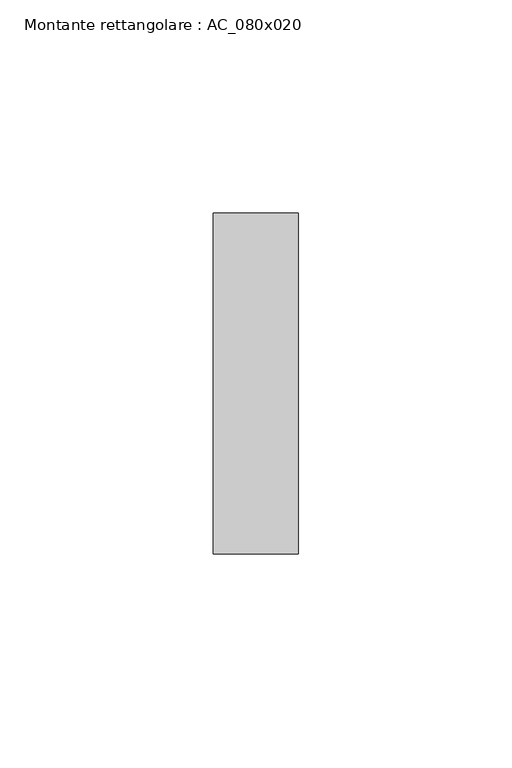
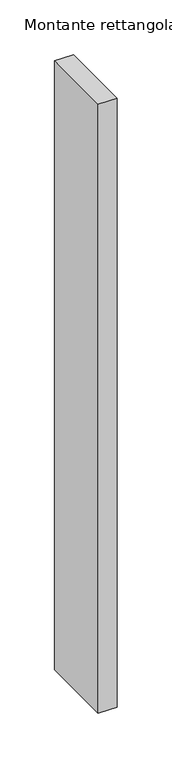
"""IFC4 building model written with IfcOpenShell, lengths in millimetres: member geometry, Montante rettangolare : AC_080x020."""

from ifc_helpers import new_model, si_unit, frame, origin, place, context, project, spatial, polyline, outline, extrude, source, transform, mapped, element, save


def montante_rettangolare_ac_080x020_0aace36a(model_context):
    return source(origin(), model_context, "Body", "SweptSolid", [
        extrude(outline(polyline([(0.0, 40.0), (0.0, -40.0), (-20.0, -40.0), (-20.0, 40.0), (0.0, 40.0)])), frame((0.0, 0.0, -679.3356215), z_axis=(0.0, 0.0, 1.0), x_axis=(1.0, 0.0, 0.0)), (0.0, 0.0, 1.0), 679.3356215),
    ])


if __name__ == "__main__":
    model = new_model("IFC4")
    model_context = context("Model", 3, world=origin())
    ifc_project = project(units=[si_unit("LENGTHUNIT", "METRE", prefix="MILLI")], contexts=[model_context])
    site = spatial("IfcSite", under=ifc_project)
    building = spatial("IfcBuilding", under=site)
    placement = place(None, origin())
    montante_rettangolare_ac_080x020_shape = montante_rettangolare_ac_080x020_0aace36a(model_context)
    element("IfcMember", 1, ObjectType="Montante rettangolare : AC_080x020", at=placement, inside=building, context=model_context, shape_type="MappedRepresentation", body=[
        mapped(montante_rettangolare_ac_080x020_shape, transform((0.0, 0.0, 0.0), x_axis=(1.0, 0.0, 0.0), y_axis=(0.0, 1.0, 0.0), z_axis=(0.0, 0.0, 1.0))),
    ])
    save(model, "model.ifc")
